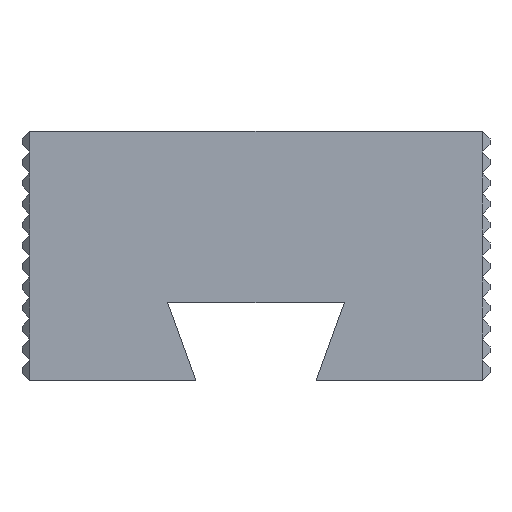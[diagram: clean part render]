
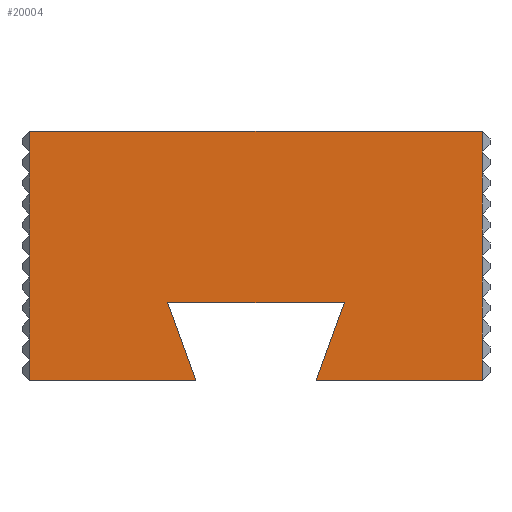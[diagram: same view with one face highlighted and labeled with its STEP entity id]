
A CAD part, front view. The second image highlights one B-rep face of the part: STEP entity #20004.
In plain terms, the highlighted planar face has unit normal (0, -1, 0).
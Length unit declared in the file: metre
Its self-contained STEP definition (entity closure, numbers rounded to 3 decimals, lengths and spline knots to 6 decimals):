
#591=DIRECTION('',(0.,0.,-1.));
#592=VECTOR('',#591,0.002);
#593=CARTESIAN_POINT('',(0.02175,-0.015,0.));
#594=LINE('',#593,#592);
#603=DIRECTION('',(1.,0.,0.));
#604=VECTOR('',#603,0.0435);
#605=CARTESIAN_POINT('',(-0.02175,-0.015,0.));
#606=LINE('',#605,#604);
#607=DIRECTION('',(0.,0.,1.));
#608=VECTOR('',#607,0.002);
#609=CARTESIAN_POINT('',(0.02175,-0.015,-0.022));
#610=LINE('',#609,#608);
#611=DIRECTION('',(0.,0.,1.));
#612=VECTOR('',#611,0.002);
#613=CARTESIAN_POINT('',(0.02175,-0.015,-0.024));
#614=LINE('',#613,#612);
#615=DIRECTION('',(-0.342,0.,-0.94));
#616=VECTOR('',#615,0.007981);
#617=CARTESIAN_POINT('',(0.008506,-0.015,-0.0165));
#618=LINE('',#617,#616);
#619=DIRECTION('',(1.,0.,0.));
#620=VECTOR('',#619,0.017011);
#621=CARTESIAN_POINT('',(-0.008506,-0.015,-0.0165));
#622=LINE('',#621,#620);
#623=DIRECTION('',(-0.342,0.,0.94));
#624=VECTOR('',#623,0.007981);
#625=CARTESIAN_POINT('',(-0.005776,-0.015,-0.024));
#626=LINE('',#625,#624);
#627=DIRECTION('',(0.,0.,-1.));
#628=VECTOR('',#627,0.002);
#629=CARTESIAN_POINT('',(-0.02175,-0.015,-0.022));
#630=LINE('',#629,#628);
#631=DIRECTION('',(0.,0.,-1.));
#632=VECTOR('',#631,0.002);
#633=CARTESIAN_POINT('',(0.02175,-0.015,-0.002));
#634=LINE('',#633,#632);
#695=DIRECTION('',(0.,0.,-1.));
#696=VECTOR('',#695,0.002);
#697=CARTESIAN_POINT('',(0.02175,-0.015,-0.004));
#698=LINE('',#697,#696);
#739=DIRECTION('',(0.,0.,-1.));
#740=VECTOR('',#739,0.002);
#741=CARTESIAN_POINT('',(0.02175,-0.015,-0.006));
#742=LINE('',#741,#740);
#783=DIRECTION('',(0.,0.,-1.));
#784=VECTOR('',#783,0.002);
#785=CARTESIAN_POINT('',(0.02175,-0.015,-0.008));
#786=LINE('',#785,#784);
#827=DIRECTION('',(0.,0.,-1.));
#828=VECTOR('',#827,0.002);
#829=CARTESIAN_POINT('',(0.02175,-0.015,-0.01));
#830=LINE('',#829,#828);
#871=DIRECTION('',(0.,0.,-1.));
#872=VECTOR('',#871,0.002);
#873=CARTESIAN_POINT('',(0.02175,-0.015,-0.012));
#874=LINE('',#873,#872);
#915=DIRECTION('',(0.,0.,-1.));
#916=VECTOR('',#915,0.002);
#917=CARTESIAN_POINT('',(0.02175,-0.015,-0.014));
#918=LINE('',#917,#916);
#959=DIRECTION('',(0.,0.,-1.));
#960=VECTOR('',#959,0.002);
#961=CARTESIAN_POINT('',(0.02175,-0.015,-0.016));
#962=LINE('',#961,#960);
#995=DIRECTION('',(0.,0.,-1.));
#996=VECTOR('',#995,0.002);
#997=CARTESIAN_POINT('',(0.02175,-0.015,-0.018));
#998=LINE('',#997,#996);
#1099=DIRECTION('',(-1.,0.,0.));
#1100=VECTOR('',#1099,0.015974);
#1101=CARTESIAN_POINT('',(0.02175,-0.015,-0.024));
#1102=LINE('',#1101,#1100);
#7523=DIRECTION('',(-1.,0.,0.));
#7524=VECTOR('',#7523,0.015974);
#7525=CARTESIAN_POINT('',(-0.005776,-0.015,-0.024));
#7526=LINE('',#7525,#7524);
#9251=DIRECTION('',(0.,0.,1.));
#9252=VECTOR('',#9251,0.002);
#9253=CARTESIAN_POINT('',(-0.02175,-0.015,-0.02));
#9254=LINE('',#9253,#9252);
#9279=DIRECTION('',(0.,0.,1.));
#9280=VECTOR('',#9279,0.002);
#9281=CARTESIAN_POINT('',(-0.02175,-0.015,-0.022));
#9282=LINE('',#9281,#9280);
#10359=DIRECTION('',(0.,0.,1.));
#10360=VECTOR('',#10359,0.002);
#10361=CARTESIAN_POINT('',(-0.02175,-0.015,-0.016));
#10362=LINE('',#10361,#10360);
#10387=DIRECTION('',(0.,0.,1.));
#10388=VECTOR('',#10387,0.002);
#10389=CARTESIAN_POINT('',(-0.02175,-0.015,-0.018));
#10390=LINE('',#10389,#10388);
#11511=DIRECTION('',(0.,0.,1.));
#11512=VECTOR('',#11511,0.002);
#11513=CARTESIAN_POINT('',(-0.02175,-0.015,-0.014));
#11514=LINE('',#11513,#11512);
#11523=DIRECTION('',(0.,0.,1.));
#11524=VECTOR('',#11523,0.002);
#11525=CARTESIAN_POINT('',(-0.02175,-0.015,-0.012));
#11526=LINE('',#11525,#11524);
#12559=DIRECTION('',(0.,0.,1.));
#12560=VECTOR('',#12559,0.002);
#12561=CARTESIAN_POINT('',(-0.02175,-0.015,-0.008));
#12562=LINE('',#12561,#12560);
#12587=DIRECTION('',(0.,0.,1.));
#12588=VECTOR('',#12587,0.002);
#12589=CARTESIAN_POINT('',(-0.02175,-0.015,-0.01));
#12590=LINE('',#12589,#12588);
#13619=DIRECTION('',(0.,0.,1.));
#13620=VECTOR('',#13619,0.002);
#13621=CARTESIAN_POINT('',(-0.02175,-0.015,-0.004));
#13622=LINE('',#13621,#13620);
#13647=DIRECTION('',(0.,0.,1.));
#13648=VECTOR('',#13647,0.002);
#13649=CARTESIAN_POINT('',(-0.02175,-0.015,-0.006));
#13650=LINE('',#13649,#13648);
#13995=DIRECTION('',(0.,0.,1.));
#13996=VECTOR('',#13995,0.002);
#13997=CARTESIAN_POINT('',(-0.02175,-0.015,-0.002));
#13998=LINE('',#13997,#13996);
#15105=CARTESIAN_POINT('',(-0.02175,-0.015,-0.022));
#15106=VERTEX_POINT('',#15105);
#15109=CARTESIAN_POINT('',(-0.02175,-0.015,-0.024));
#15110=VERTEX_POINT('',#15109);
#15111=CARTESIAN_POINT('',(-0.005776,-0.015,-0.024));
#15112=VERTEX_POINT('',#15111);
#15113=CARTESIAN_POINT('',(-0.02175,-0.015,-0.02));
#15114=VERTEX_POINT('',#15113);
#15115=CARTESIAN_POINT('',(-0.02175,-0.015,-0.018));
#15116=VERTEX_POINT('',#15115);
#15117=CARTESIAN_POINT('',(-0.02175,-0.015,-0.016));
#15118=VERTEX_POINT('',#15117);
#15119=CARTESIAN_POINT('',(-0.02175,-0.015,-0.014));
#15120=VERTEX_POINT('',#15119);
#15121=CARTESIAN_POINT('',(-0.02175,-0.015,-0.012));
#15122=VERTEX_POINT('',#15121);
#15123=CARTESIAN_POINT('',(-0.02175,-0.015,-0.01));
#15124=VERTEX_POINT('',#15123);
#15125=CARTESIAN_POINT('',(-0.02175,-0.015,-0.008));
#15126=VERTEX_POINT('',#15125);
#15127=CARTESIAN_POINT('',(-0.02175,-0.015,-0.006));
#15128=VERTEX_POINT('',#15127);
#15129=CARTESIAN_POINT('',(-0.02175,-0.015,-0.004));
#15130=VERTEX_POINT('',#15129);
#15131=CARTESIAN_POINT('',(-0.02175,-0.015,-0.002));
#15132=VERTEX_POINT('',#15131);
#15133=CARTESIAN_POINT('',(-0.02175,-0.015,0.));
#15134=VERTEX_POINT('',#15133);
#16867=CARTESIAN_POINT('',(0.02175,-0.015,-0.022));
#16868=VERTEX_POINT('',#16867);
#16871=CARTESIAN_POINT('',(0.02175,-0.015,-0.024));
#16872=VERTEX_POINT('',#16871);
#17068=CARTESIAN_POINT('',(0.02175,-0.015,0.));
#17070=VERTEX_POINT('',#17068);
#17479=CARTESIAN_POINT('',(0.02175,-0.015,-0.02));
#17480=VERTEX_POINT('',#17479);
#17483=CARTESIAN_POINT('',(0.02175,-0.015,-0.002));
#17484=VERTEX_POINT('',#17483);
#17485=CARTESIAN_POINT('',(0.02175,-0.015,-0.004));
#17486=VERTEX_POINT('',#17485);
#17487=CARTESIAN_POINT('',(0.02175,-0.015,-0.006));
#17488=VERTEX_POINT('',#17487);
#17489=CARTESIAN_POINT('',(0.02175,-0.015,-0.008));
#17490=VERTEX_POINT('',#17489);
#17491=CARTESIAN_POINT('',(0.02175,-0.015,-0.01));
#17492=VERTEX_POINT('',#17491);
#17493=CARTESIAN_POINT('',(0.02175,-0.015,-0.012));
#17494=VERTEX_POINT('',#17493);
#17495=CARTESIAN_POINT('',(0.02175,-0.015,-0.014));
#17496=VERTEX_POINT('',#17495);
#17497=CARTESIAN_POINT('',(0.02175,-0.015,-0.016));
#17498=VERTEX_POINT('',#17497);
#17499=CARTESIAN_POINT('',(0.02175,-0.015,-0.018));
#17500=VERTEX_POINT('',#17499);
#17501=CARTESIAN_POINT('',(0.005776,-0.015,-0.024));
#17502=VERTEX_POINT('',#17501);
#18719=CARTESIAN_POINT('',(-0.008506,-0.015,-0.0165));
#18721=VERTEX_POINT('',#18719);
#18723=CARTESIAN_POINT('',(0.008506,-0.015,-0.0165));
#18725=VERTEX_POINT('',#18723);
#19940=CARTESIAN_POINT('',(-0.016,-0.015,0.));
#19941=DIRECTION('',(0.,-1.,0.));
#19942=DIRECTION('',(-1.,0.,0.));
#19943=AXIS2_PLACEMENT_3D('',#19940,#19941,#19942);
#19944=PLANE('',#19943);
#19945=ORIENTED_EDGE('',*,*,#19212,.T.);
#19946=ORIENTED_EDGE('',*,*,#19930,.T.);
#19948=ORIENTED_EDGE('',*,*,#19947,.T.);
#19950=ORIENTED_EDGE('',*,*,#19949,.T.);
#19952=ORIENTED_EDGE('',*,*,#19951,.T.);
#19954=ORIENTED_EDGE('',*,*,#19953,.T.);
#19956=ORIENTED_EDGE('',*,*,#19955,.T.);
#19958=ORIENTED_EDGE('',*,*,#19957,.T.);
#19960=ORIENTED_EDGE('',*,*,#19959,.T.);
#19962=ORIENTED_EDGE('',*,*,#19961,.T.);
#19964=ORIENTED_EDGE('',*,*,#19963,.T.);
#19966=ORIENTED_EDGE('',*,*,#19965,.F.);
#19968=ORIENTED_EDGE('',*,*,#19967,.F.);
#19970=ORIENTED_EDGE('',*,*,#19969,.T.);
#19972=ORIENTED_EDGE('',*,*,#19971,.F.);
#19973=ORIENTED_EDGE('',*,*,#18835,.F.);
#19975=ORIENTED_EDGE('',*,*,#19974,.F.);
#19977=ORIENTED_EDGE('',*,*,#19976,.T.);
#19979=ORIENTED_EDGE('',*,*,#19978,.F.);
#19981=ORIENTED_EDGE('',*,*,#19980,.T.);
#19983=ORIENTED_EDGE('',*,*,#19982,.T.);
#19985=ORIENTED_EDGE('',*,*,#19984,.T.);
#19987=ORIENTED_EDGE('',*,*,#19986,.T.);
#19989=ORIENTED_EDGE('',*,*,#19988,.T.);
#19991=ORIENTED_EDGE('',*,*,#19990,.T.);
#19993=ORIENTED_EDGE('',*,*,#19992,.T.);
#19995=ORIENTED_EDGE('',*,*,#19994,.T.);
#19997=ORIENTED_EDGE('',*,*,#19996,.T.);
#19999=ORIENTED_EDGE('',*,*,#19998,.T.);
#20001=ORIENTED_EDGE('',*,*,#20000,.T.);
#20002=EDGE_LOOP('',(#19945,#19946,#19948,#19950,#19952,#19954,#19956,#19958,
#19960,#19962,#19964,#19966,#19968,#19970,#19972,#19973,#19975,#19977,#19979,
#19981,#19983,#19985,#19987,#19989,#19991,#19993,#19995,#19997,#19999,#20001));
#20003=FACE_OUTER_BOUND('',#20002,.F.);
#20004=ADVANCED_FACE('',(#20003),#19944,.T.);
#18835=EDGE_CURVE('',#18721,#18725,#622,.T.);
#19212=EDGE_CURVE('',#15134,#17070,#606,.T.);
#19930=EDGE_CURVE('',#17070,#17484,#594,.T.);
#19947=EDGE_CURVE('',#17484,#17486,#634,.T.);
#19949=EDGE_CURVE('',#17486,#17488,#698,.T.);
#19951=EDGE_CURVE('',#17488,#17490,#742,.T.);
#19953=EDGE_CURVE('',#17490,#17492,#786,.T.);
#19955=EDGE_CURVE('',#17492,#17494,#830,.T.);
#19957=EDGE_CURVE('',#17494,#17496,#874,.T.);
#19959=EDGE_CURVE('',#17496,#17498,#918,.T.);
#19961=EDGE_CURVE('',#17498,#17500,#962,.T.);
#19963=EDGE_CURVE('',#17500,#17480,#998,.T.);
#19965=EDGE_CURVE('',#16868,#17480,#610,.T.);
#19967=EDGE_CURVE('',#16872,#16868,#614,.T.);
#19969=EDGE_CURVE('',#16872,#17502,#1102,.T.);
#19971=EDGE_CURVE('',#18725,#17502,#618,.T.);
#19974=EDGE_CURVE('',#15112,#18721,#626,.T.);
#19976=EDGE_CURVE('',#15112,#15110,#7526,.T.);
#19978=EDGE_CURVE('',#15106,#15110,#630,.T.);
#19980=EDGE_CURVE('',#15106,#15114,#9282,.T.);
#19982=EDGE_CURVE('',#15114,#15116,#9254,.T.);
#19984=EDGE_CURVE('',#15116,#15118,#10390,.T.);
#19986=EDGE_CURVE('',#15118,#15120,#10362,.T.);
#19988=EDGE_CURVE('',#15120,#15122,#11514,.T.);
#19990=EDGE_CURVE('',#15122,#15124,#11526,.T.);
#19992=EDGE_CURVE('',#15124,#15126,#12590,.T.);
#19994=EDGE_CURVE('',#15126,#15128,#12562,.T.);
#19996=EDGE_CURVE('',#15128,#15130,#13650,.T.);
#19998=EDGE_CURVE('',#15130,#15132,#13622,.T.);
#20000=EDGE_CURVE('',#15132,#15134,#13998,.T.);
